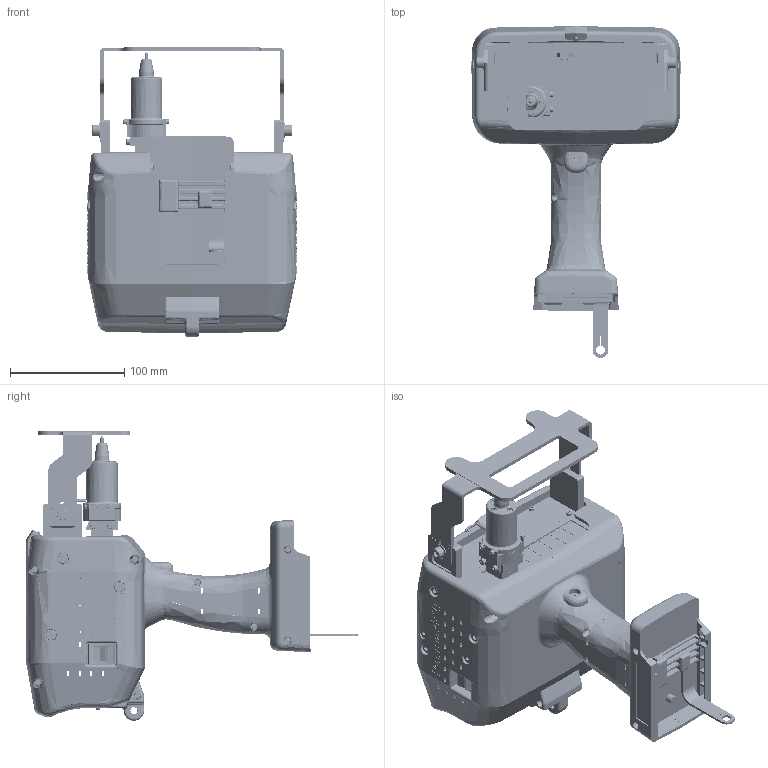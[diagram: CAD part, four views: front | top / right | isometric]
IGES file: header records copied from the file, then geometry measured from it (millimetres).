
Start section: SolidWorks IGES file using analytic representation for surfaces
Global section: file name: C:\東京彫刻 Solidworks Data\_外観図関係\Patmark2-plus\3D\2026_07\Patmark2-plus v1 -A AC.IGS; native system: SolidWorks 2023; preprocessor: SolidWorks 2023; author: tocho; date: 260709.091345; units: millimetre
Bounding box: 183.6 x 290.9 x 254 mm (x, y, z)
Surface area: 548549.9 mm2 (no closed solid volume)
Topology: 0 solids, 0 shells, 6674 faces, 77307 edges, 77196 vertices
Faces by surface type: bspline 4186, revolution 2488
